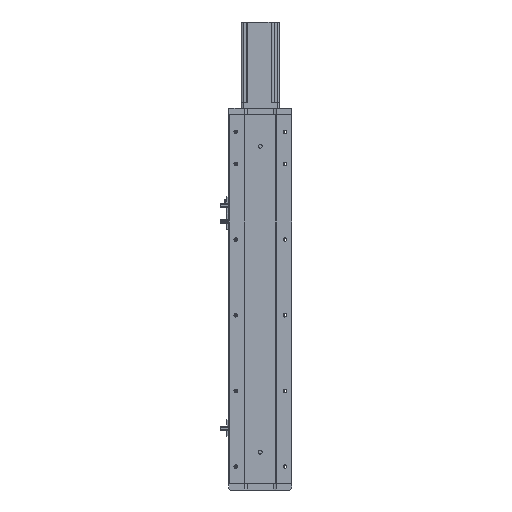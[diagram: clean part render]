
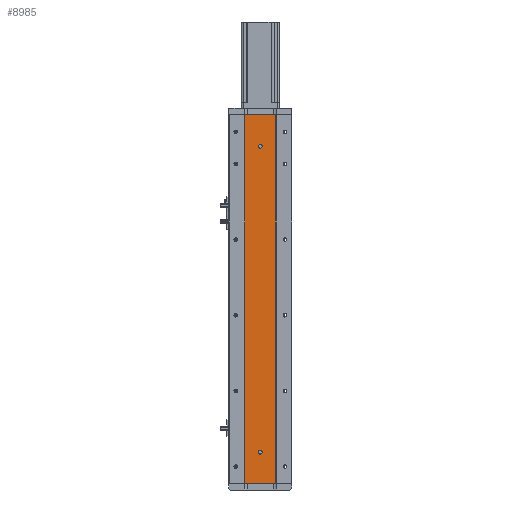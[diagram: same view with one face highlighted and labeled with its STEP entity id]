
A CAD part, left-side view. The second image highlights one B-rep face of the part: STEP entity #8985.
In plain terms, the highlighted planar face has unit normal (-1, 0, 0).
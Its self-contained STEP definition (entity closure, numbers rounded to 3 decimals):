
#13 = EDGE_LOOP ( 'NONE', ( #22785, #5340 ) ) ;
#1430 = CARTESIAN_POINT ( 'NONE',  ( -18.926, 24.785, 0. ) ) ;
#2263 = ORIENTED_EDGE ( 'NONE', *, *, #17806, .F. ) ;
#2332 = PLANE ( 'NONE',  #6206 ) ;
#2353 = CARTESIAN_POINT ( 'NONE',  ( -18.926, 0., 538. ) ) ;
#2494 = CARTESIAN_POINT ( 'NONE',  ( -18.926, -24.785, 585. ) ) ;
#2578 = CARTESIAN_POINT ( 'NONE',  ( -18.926, 24.785, 585. ) ) ;
#2753 = VECTOR ( 'NONE', #14056, 1000. ) ;
#3570 = CARTESIAN_POINT ( 'NONE',  ( -18.926, -24.785, 585. ) ) ;
#4811 = VERTEX_POINT ( 'NONE', #22015 ) ;
#4945 = VECTOR ( 'NONE', #15674, 1000. ) ;
#5006 = EDGE_CURVE ( 'NONE', #34837, #37210, #33376, .T. ) ;
#5007 = FACE_OUTER_BOUND ( 'NONE', #10427, .T. ) ;
#5340 = ORIENTED_EDGE ( 'NONE', *, *, #35808, .F. ) ;
#5561 = DIRECTION ( 'NONE',  ( 0., 0., -1. ) ) ;
#5865 = AXIS2_PLACEMENT_3D ( 'NONE', #32349, #15290, #35234 ) ;
#6206 = AXIS2_PLACEMENT_3D ( 'NONE', #2578, #22876, #5561 ) ;
#6569 = DIRECTION ( 'NONE',  ( 0., 0., -1. ) ) ;
#7125 = CARTESIAN_POINT ( 'NONE',  ( -18.926, 0., 532. ) ) ;
#7912 = CIRCLE ( 'NONE', #5865, 3. ) ;
#8205 = LINE ( 'NONE', #23852, #22665 ) ;
#8985 = ADVANCED_FACE ( 'NONE', ( #20401, #27031, #5007 ), #2332, .F. ) ;
#9695 = DIRECTION ( 'NONE',  ( -1., 0., 0. ) ) ;
#9933 = AXIS2_PLACEMENT_3D ( 'NONE', #26913, #9695, #29781 ) ;
#10427 = EDGE_LOOP ( 'NONE', ( #19539, #2263, #24547, #17761 ) ) ;
#11786 = ORIENTED_EDGE ( 'NONE', *, *, #5006, .F. ) ;
#12358 = DIRECTION ( 'NONE',  ( 0., 0., -1. ) ) ;
#13266 = DIRECTION ( 'NONE',  ( -1., 0., 0. ) ) ;
#14056 = DIRECTION ( 'NONE',  ( 0., -1., 0. ) ) ;
#14100 = EDGE_LOOP ( 'NONE', ( #36791, #11786 ) ) ;
#14520 = VECTOR ( 'NONE', #12358, 1000. ) ;
#15290 = DIRECTION ( 'NONE',  ( -1., 0., 0. ) ) ;
#15674 = DIRECTION ( 'NONE',  ( 0., -1., 0. ) ) ;
#16490 = VERTEX_POINT ( 'NONE', #2494 ) ;
#17053 = EDGE_CURVE ( 'NONE', #32224, #16490, #32425, .T. ) ;
#17251 = CIRCLE ( 'NONE', #33625, 3. ) ;
#17436 = VERTEX_POINT ( 'NONE', #1430 ) ;
#17761 = ORIENTED_EDGE ( 'NONE', *, *, #19906, .T. ) ;
#17806 = EDGE_CURVE ( 'NONE', #16490, #4811, #30601, .T. ) ;
#18539 = DIRECTION ( 'NONE',  ( 0., 0., 1. ) ) ;
#18546 = CARTESIAN_POINT ( 'NONE',  ( -18.926, 24.785, 0. ) ) ;
#18573 = DIRECTION ( 'NONE',  ( -1., 0., 0. ) ) ;
#18621 = CARTESIAN_POINT ( 'NONE',  ( -18.926, 0., 50. ) ) ;
#19539 = ORIENTED_EDGE ( 'NONE', *, *, #20869, .T. ) ;
#19570 = CIRCLE ( 'NONE', #9933, 3. ) ;
#19906 = EDGE_CURVE ( 'NONE', #32224, #17436, #8205, .T. ) ;
#20401 = FACE_BOUND ( 'NONE', #14100, .T. ) ;
#20869 = EDGE_CURVE ( 'NONE', #17436, #4811, #27887, .T. ) ;
#21620 = CARTESIAN_POINT ( 'NONE',  ( -18.926, 0., 53. ) ) ;
#22015 = CARTESIAN_POINT ( 'NONE',  ( -18.926, -24.785, 0. ) ) ;
#22665 = VECTOR ( 'NONE', #6569, 1000. ) ;
#22785 = ORIENTED_EDGE ( 'NONE', *, *, #24819, .F. ) ;
#22876 = DIRECTION ( 'NONE',  ( 1., 0., 0. ) ) ;
#23390 = VERTEX_POINT ( 'NONE', #7125 ) ;
#23852 = CARTESIAN_POINT ( 'NONE',  ( -18.926, 24.785, 585. ) ) ;
#24436 = EDGE_CURVE ( 'NONE', #37210, #34837, #19570, .T. ) ;
#24547 = ORIENTED_EDGE ( 'NONE', *, *, #17053, .F. ) ;
#24819 = EDGE_CURVE ( 'NONE', #35351, #23390, #7912, .T. ) ;
#25444 = CARTESIAN_POINT ( 'NONE',  ( -18.926, 24.785, 585. ) ) ;
#26913 = CARTESIAN_POINT ( 'NONE',  ( -18.926, 0., 50. ) ) ;
#27031 = FACE_BOUND ( 'NONE', #13, .T. ) ;
#27887 = LINE ( 'NONE', #18546, #4945 ) ;
#29164 = AXIS2_PLACEMENT_3D ( 'NONE', #18621, #18573, #18539 ) ;
#29781 = DIRECTION ( 'NONE',  ( 0., 0., 1. ) ) ;
#30395 = CARTESIAN_POINT ( 'NONE',  ( -18.926, 0., 535. ) ) ;
#30601 = LINE ( 'NONE', #3570, #14520 ) ;
#32224 = VERTEX_POINT ( 'NONE', #35742 ) ;
#32349 = CARTESIAN_POINT ( 'NONE',  ( -18.926, 0., 535. ) ) ;
#32425 = LINE ( 'NONE', #25444, #2753 ) ;
#33239 = DIRECTION ( 'NONE',  ( 0., 0., 1. ) ) ;
#33376 = CIRCLE ( 'NONE', #29164, 3. ) ;
#33625 = AXIS2_PLACEMENT_3D ( 'NONE', #30395, #13266, #33239 ) ;
#34837 = VERTEX_POINT ( 'NONE', #37032 ) ;
#35234 = DIRECTION ( 'NONE',  ( 0., 0., 1. ) ) ;
#35351 = VERTEX_POINT ( 'NONE', #2353 ) ;
#35742 = CARTESIAN_POINT ( 'NONE',  ( -18.926, 24.785, 585. ) ) ;
#35808 = EDGE_CURVE ( 'NONE', #23390, #35351, #17251, .T. ) ;
#36791 = ORIENTED_EDGE ( 'NONE', *, *, #24436, .F. ) ;
#37032 = CARTESIAN_POINT ( 'NONE',  ( -18.926, 0., 47. ) ) ;
#37210 = VERTEX_POINT ( 'NONE', #21620 ) ;
